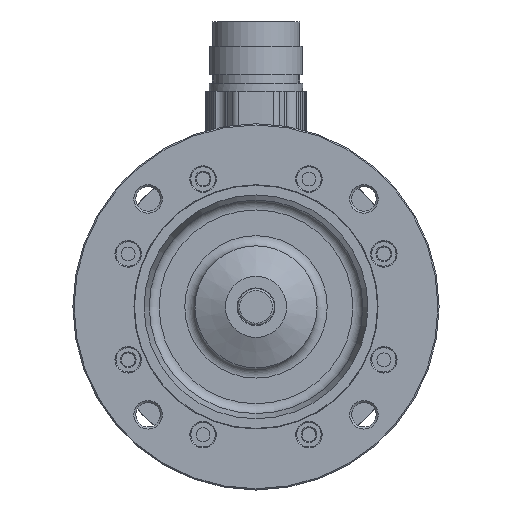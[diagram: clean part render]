
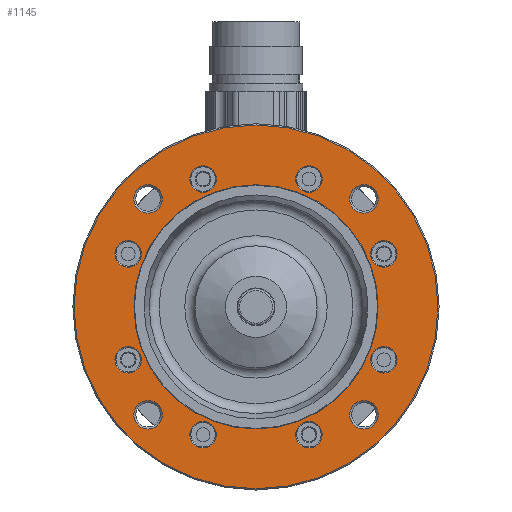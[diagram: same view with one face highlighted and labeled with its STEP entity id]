
A CAD part, front view. The second image highlights one B-rep face of the part: STEP entity #1145.
In plain terms, the highlighted planar face has unit normal (0, -1, 0).
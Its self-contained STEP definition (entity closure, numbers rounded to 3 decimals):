
#456=PLANE('',#6303);
#566=FACE_BOUND('',#2077,.T.);
#567=FACE_BOUND('',#2078,.T.);
#568=FACE_BOUND('',#2079,.T.);
#569=FACE_BOUND('',#2080,.T.);
#570=FACE_BOUND('',#2081,.T.);
#571=FACE_BOUND('',#2082,.T.);
#572=FACE_BOUND('',#2083,.T.);
#573=FACE_BOUND('',#2084,.T.);
#574=FACE_BOUND('',#2085,.T.);
#575=FACE_BOUND('',#2086,.T.);
#576=FACE_BOUND('',#2087,.T.);
#577=FACE_BOUND('',#2088,.T.);
#578=FACE_BOUND('',#2089,.T.);
#1145=ADVANCED_FACE('',(#1796,#566,#567,#568,#569,#570,#571,#572,#573,#574,
#575,#576,#577,#578),#456,.T.);
#1796=FACE_OUTER_BOUND('',#2076,.T.);
#2076=EDGE_LOOP('',(#3480));
#2077=EDGE_LOOP('',(#3481));
#2078=EDGE_LOOP('',(#3482));
#2079=EDGE_LOOP('',(#3483));
#2080=EDGE_LOOP('',(#3484));
#2081=EDGE_LOOP('',(#3485));
#2082=EDGE_LOOP('',(#3486));
#2083=EDGE_LOOP('',(#3487));
#2084=EDGE_LOOP('',(#3488));
#2085=EDGE_LOOP('',(#3489));
#2086=EDGE_LOOP('',(#3490));
#2087=EDGE_LOOP('',(#3491));
#2088=EDGE_LOOP('',(#3492));
#2089=EDGE_LOOP('',(#3493));
#2930=CIRCLE('',#6289,44.7);
#2931=CIRCLE('',#6290,3.25);
#2932=CIRCLE('',#6291,3.25);
#2933=CIRCLE('',#6292,3.25);
#2934=CIRCLE('',#6293,3.25);
#2935=CIRCLE('',#6294,3.25);
#2936=CIRCLE('',#6295,3.25);
#2937=CIRCLE('',#6296,3.25);
#2938=CIRCLE('',#6297,3.25);
#2939=CIRCLE('',#6298,3.5);
#2940=CIRCLE('',#6299,3.5);
#2941=CIRCLE('',#6300,3.5);
#2942=CIRCLE('',#6301,3.5);
#2943=CIRCLE('',#6302,30.);
#3480=ORIENTED_EDGE('',*,*,#5386,.T.);
#3481=ORIENTED_EDGE('',*,*,#5387,.T.);
#3482=ORIENTED_EDGE('',*,*,#5388,.T.);
#3483=ORIENTED_EDGE('',*,*,#5389,.T.);
#3484=ORIENTED_EDGE('',*,*,#5390,.T.);
#3485=ORIENTED_EDGE('',*,*,#5391,.T.);
#3486=ORIENTED_EDGE('',*,*,#5392,.T.);
#3487=ORIENTED_EDGE('',*,*,#5393,.T.);
#3488=ORIENTED_EDGE('',*,*,#5394,.T.);
#3489=ORIENTED_EDGE('',*,*,#5395,.T.);
#3490=ORIENTED_EDGE('',*,*,#5396,.T.);
#3491=ORIENTED_EDGE('',*,*,#5397,.T.);
#3492=ORIENTED_EDGE('',*,*,#5398,.T.);
#3493=ORIENTED_EDGE('',*,*,#5399,.F.);
#4810=VERTEX_POINT('',#9397);
#4811=VERTEX_POINT('',#9399);
#4812=VERTEX_POINT('',#9401);
#4813=VERTEX_POINT('',#9403);
#4814=VERTEX_POINT('',#9405);
#4815=VERTEX_POINT('',#9407);
#4816=VERTEX_POINT('',#9409);
#4817=VERTEX_POINT('',#9411);
#4818=VERTEX_POINT('',#9413);
#4819=VERTEX_POINT('',#9415);
#4820=VERTEX_POINT('',#9417);
#4821=VERTEX_POINT('',#9419);
#4822=VERTEX_POINT('',#9421);
#4823=VERTEX_POINT('',#9423);
#5386=EDGE_CURVE('',#4810,#4810,#2930,.T.);
#5387=EDGE_CURVE('',#4811,#4811,#2931,.T.);
#5388=EDGE_CURVE('',#4812,#4812,#2932,.T.);
#5389=EDGE_CURVE('',#4813,#4813,#2933,.T.);
#5390=EDGE_CURVE('',#4814,#4814,#2934,.T.);
#5391=EDGE_CURVE('',#4815,#4815,#2935,.T.);
#5392=EDGE_CURVE('',#4816,#4816,#2936,.T.);
#5393=EDGE_CURVE('',#4817,#4817,#2937,.T.);
#5394=EDGE_CURVE('',#4818,#4818,#2938,.T.);
#5395=EDGE_CURVE('',#4819,#4819,#2939,.T.);
#5396=EDGE_CURVE('',#4820,#4820,#2940,.T.);
#5397=EDGE_CURVE('',#4821,#4821,#2941,.T.);
#5398=EDGE_CURVE('',#4822,#4822,#2942,.T.);
#5399=EDGE_CURVE('',#4823,#4823,#2943,.T.);
#6289=AXIS2_PLACEMENT_3D('',#9396,#7304,#7305);
#6290=AXIS2_PLACEMENT_3D('',#9398,#7306,#7307);
#6291=AXIS2_PLACEMENT_3D('',#9400,#7308,#7309);
#6292=AXIS2_PLACEMENT_3D('',#9402,#7310,#7311);
#6293=AXIS2_PLACEMENT_3D('',#9404,#7312,#7313);
#6294=AXIS2_PLACEMENT_3D('',#9406,#7314,#7315);
#6295=AXIS2_PLACEMENT_3D('',#9408,#7316,#7317);
#6296=AXIS2_PLACEMENT_3D('',#9410,#7318,#7319);
#6297=AXIS2_PLACEMENT_3D('',#9412,#7320,#7321);
#6298=AXIS2_PLACEMENT_3D('',#9414,#7322,#7323);
#6299=AXIS2_PLACEMENT_3D('',#9416,#7324,#7325);
#6300=AXIS2_PLACEMENT_3D('',#9418,#7326,#7327);
#6301=AXIS2_PLACEMENT_3D('',#9420,#7328,#7329);
#6302=AXIS2_PLACEMENT_3D('',#9422,#7330,#7331);
#6303=AXIS2_PLACEMENT_3D('',#9424,#7332,#7333);
#7304=DIRECTION('',(0.,-1.,0.));
#7305=DIRECTION('',(0.,0.,-1.));
#7306=DIRECTION('',(0.,1.,0.));
#7307=DIRECTION('',(0.,0.,-1.));
#7308=DIRECTION('',(0.,1.,0.));
#7309=DIRECTION('',(0.,0.,-1.));
#7310=DIRECTION('',(0.,1.,0.));
#7311=DIRECTION('',(0.,0.,-1.));
#7312=DIRECTION('',(0.,1.,0.));
#7313=DIRECTION('',(0.,0.,-1.));
#7314=DIRECTION('',(0.,1.,0.));
#7315=DIRECTION('',(0.,0.,-1.));
#7316=DIRECTION('',(0.,1.,0.));
#7317=DIRECTION('',(0.,0.,-1.));
#7318=DIRECTION('',(0.,1.,0.));
#7319=DIRECTION('',(0.,0.,-1.));
#7320=DIRECTION('',(0.,1.,0.));
#7321=DIRECTION('',(0.,0.,-1.));
#7322=DIRECTION('',(0.,1.,0.));
#7323=DIRECTION('',(0.,0.,-1.));
#7324=DIRECTION('',(0.,1.,0.));
#7325=DIRECTION('',(0.,0.,-1.));
#7326=DIRECTION('',(0.,1.,0.));
#7327=DIRECTION('',(0.,0.,-1.));
#7328=DIRECTION('',(0.,1.,0.));
#7329=DIRECTION('',(0.,0.,-1.));
#7330=DIRECTION('',(0.,-1.,0.));
#7331=DIRECTION('',(0.,0.,-1.));
#7332=DIRECTION('',(0.,-1.,0.));
#7333=DIRECTION('',(0.,0.,-1.));
#9396=CARTESIAN_POINT('',(0.,0.,0.));
#9397=CARTESIAN_POINT('',(0.,0.,-44.7));
#9398=CARTESIAN_POINT('',(13.011,0.,31.412));
#9399=CARTESIAN_POINT('',(13.011,0.,28.162));
#9400=CARTESIAN_POINT('',(-31.412,0.,13.011));
#9401=CARTESIAN_POINT('',(-31.412,0.,9.761));
#9402=CARTESIAN_POINT('',(31.412,0.,-13.011));
#9403=CARTESIAN_POINT('',(31.412,0.,-16.261));
#9404=CARTESIAN_POINT('',(-13.011,0.,-31.412));
#9405=CARTESIAN_POINT('',(-13.011,0.,-34.662));
#9406=CARTESIAN_POINT('',(-31.412,0.,-13.011));
#9407=CARTESIAN_POINT('',(-31.412,0.,-16.261));
#9408=CARTESIAN_POINT('',(31.412,0.,13.011));
#9409=CARTESIAN_POINT('',(31.412,0.,9.761));
#9410=CARTESIAN_POINT('',(13.011,0.,-31.412));
#9411=CARTESIAN_POINT('',(13.011,0.,-34.662));
#9412=CARTESIAN_POINT('',(-13.011,0.,31.412));
#9413=CARTESIAN_POINT('',(-13.011,0.,28.162));
#9414=CARTESIAN_POINT('',(26.517,0.,26.517));
#9415=CARTESIAN_POINT('',(26.517,0.,23.017));
#9416=CARTESIAN_POINT('',(-26.517,0.,26.517));
#9417=CARTESIAN_POINT('',(-26.517,0.,23.017));
#9418=CARTESIAN_POINT('',(26.517,0.,-26.517));
#9419=CARTESIAN_POINT('',(26.517,0.,-30.017));
#9420=CARTESIAN_POINT('',(-26.517,0.,-26.517));
#9421=CARTESIAN_POINT('',(-26.517,0.,-30.017));
#9422=CARTESIAN_POINT('',(0.,0.,0.));
#9423=CARTESIAN_POINT('',(0.,0.,-30.));
#9424=CARTESIAN_POINT('',(0.,0.,0.));
